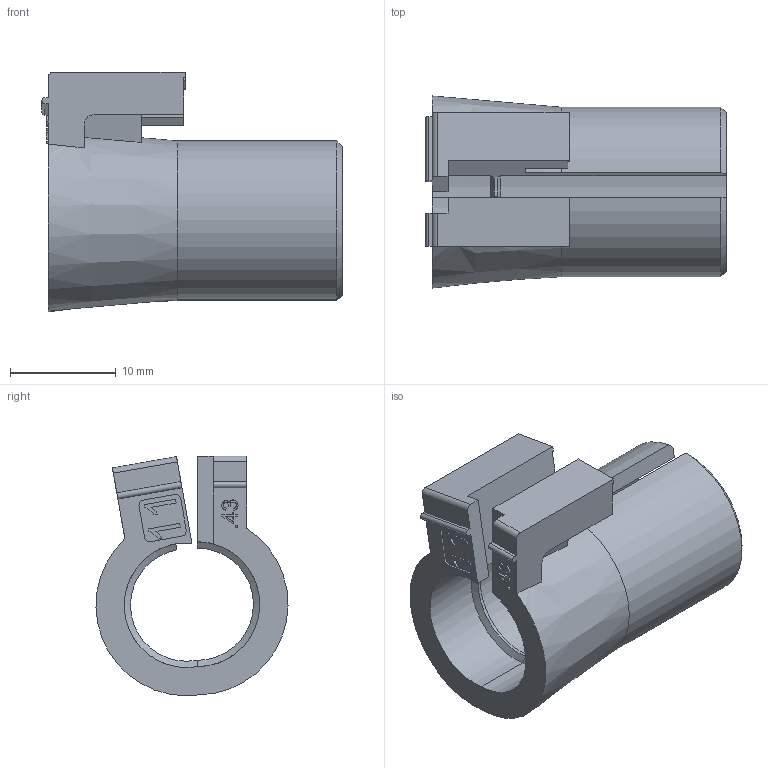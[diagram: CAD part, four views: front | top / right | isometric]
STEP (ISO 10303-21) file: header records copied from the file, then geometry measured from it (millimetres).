
FILE_DESCRIPTION(/* description */ (''),/* implementation_level */ '2;1');
FILE_NAME(/* name */ 'C:\SapWorkDir\Inventor\MP1\ConvertTempPath\87_12_121355_00_A_220530_KDT-X 11.stp',/* time_stamp */ '2022-05-31T10:38:23+02:00',/* author */ ('BAUER'),/* organization */ (''),/* preprocessor_version */ 'ST-DEVELOPER v16.13',/* originating_system */ 'Autodesk Inventor 2018',/* authorisation */ '');
FILE_SCHEMA (('AUTOMOTIVE_DESIGN { 1 0 10303 214 3 1 1 }'));
Length unit declared in the file: millimetre
Products named in the file (1): 121355
Bounding box: 28.4 x 18.16 x 22.66 mm (x, y, z)
Volume: 2803.6 mm3; surface area: 3225.4 mm2
Topology: 1 solids, 1 shells, 123 faces, 336 edges, 222 vertices
Faces by surface type: plane 77, cylinder 20, bspline 18, cone 8
Entity records: 4042 total; most frequent: CARTESIAN_POINT 934, ORIENTED_EDGE 672, DIRECTION 554, EDGE_CURVE 336, LINE 238, VECTOR 238, VERTEX_POINT 222, AXIS2_PLACEMENT_3D 158
